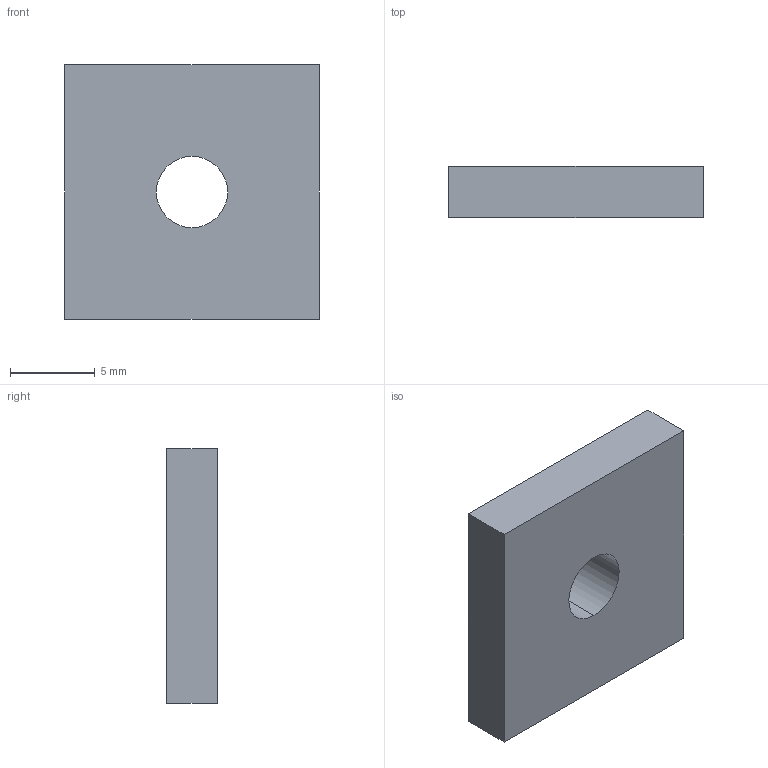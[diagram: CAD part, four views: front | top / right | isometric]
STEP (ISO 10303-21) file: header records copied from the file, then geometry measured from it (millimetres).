
FILE_DESCRIPTION (( 'STEP AP203' ), '1' );
FILE_NAME ('2.12.08.M5.STEP', '2014-06-24T02:22:18', ( 'USER' ), ( 'Microsoft' ), 'SwSTEP 2.0', 'SolidWorks 2012', '' );
FILE_SCHEMA (( 'CONFIG_CONTROL_DESIGN' ));
Length unit declared in the file: millimetre
Products named in the file (1): 2.12.08.M5
Bounding box: 15 x 3 x 15 mm (x, y, z)
Volume: 633.4 mm3; surface area: 641.9 mm2
Topology: 1 solids, 1 shells, 8 faces, 18 edges, 12 vertices
Faces by surface type: plane 6, cylinder 2
Entity records: 307 total; most frequent: DIRECTION 40, CARTESIAN_POINT 39, ORIENTED_EDGE 36, EDGE_CURVE 18, VECTOR 14, LINE 14, AXIS2_PLACEMENT_3D 13, VERTEX_POINT 12
